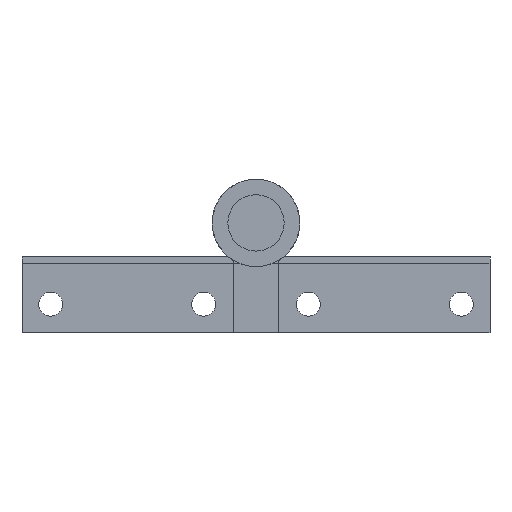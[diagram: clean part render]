
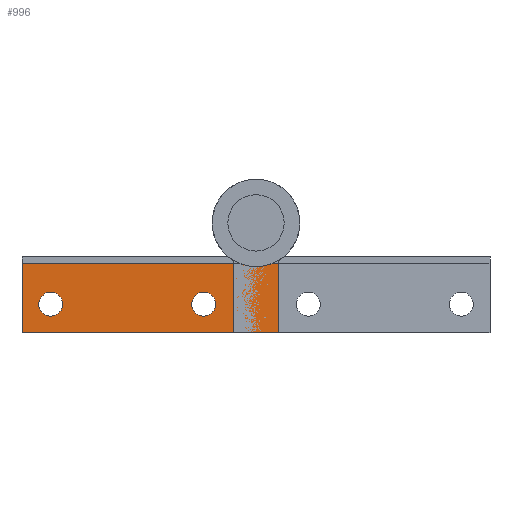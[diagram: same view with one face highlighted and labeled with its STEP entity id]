
A CAD part, front view. The second image highlights one B-rep face of the part: STEP entity #996.
In plain terms, the highlighted planar face has unit normal (0, -1, 0).
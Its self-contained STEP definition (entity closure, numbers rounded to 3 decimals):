
#47 = CIRCLE ( 'NONE', #1900, 2.5 ) ;
#150 = PLANE ( 'NONE',  #1960 ) ;
#151 = CARTESIAN_POINT ( 'NONE',  ( 9.15, 333.2, -23. ) ) ;
#152 = DIRECTION ( 'NONE',  ( 0., 1., 0. ) ) ;
#153 = DIRECTION ( 'NONE',  ( 1., 0., 0. ) ) ;
#327 = CARTESIAN_POINT ( 'NONE',  ( -10.95, 333.2, -17. ) ) ;
#328 = DIRECTION ( 'NONE',  ( 0., 1., 0. ) ) ;
#329 = DIRECTION ( 'NONE',  ( 1., 0., 0. ) ) ;
#336 = CARTESIAN_POINT ( 'NONE',  ( -48.95, 333.2, -23. ) ) ;
#340 = DIRECTION ( 'NONE',  ( 0., 0., -1. ) ) ;
#355 = CARTESIAN_POINT ( 'NONE',  ( 9.15, 333.2, -23. ) ) ;
#356 = DIRECTION ( 'NONE',  ( -1., 0., 0. ) ) ;
#373 = CARTESIAN_POINT ( 'NONE',  ( -42.95, 333.2, -17. ) ) ;
#374 = DIRECTION ( 'NONE',  ( 0., 1., 0. ) ) ;
#375 = DIRECTION ( 'NONE',  ( 1., 0., 0. ) ) ;
#464 = CARTESIAN_POINT ( 'NONE',  ( -42.95, 333.2, -17. ) ) ;
#477 = CARTESIAN_POINT ( 'NONE',  ( 9.15, 333.2, -8.5 ) ) ;
#478 = DIRECTION ( 'NONE',  ( -1., 0., 0. ) ) ;
#483 = DIRECTION ( 'NONE',  ( 0., 1., 0. ) ) ;
#484 = DIRECTION ( 'NONE',  ( 1., 0., 0. ) ) ;
#583 = CARTESIAN_POINT ( 'NONE',  ( 4.75, 333.2, -23. ) ) ;
#584 = DIRECTION ( 'NONE',  ( 0., 0., -1. ) ) ;
#613 = CARTESIAN_POINT ( 'NONE',  ( -10.95, 333.2, -17. ) ) ;
#621 = DIRECTION ( 'NONE',  ( 0., 1., 0. ) ) ;
#622 = DIRECTION ( 'NONE',  ( 1., 0., 0. ) ) ;
#732 = CARTESIAN_POINT ( 'NONE',  ( -8.45, 333.2, -17. ) ) ;
#734 = CARTESIAN_POINT ( 'NONE',  ( -13.45, 333.2, -17. ) ) ;
#736 = CARTESIAN_POINT ( 'NONE',  ( -40.45, 333.2, -17. ) ) ;
#737 = CARTESIAN_POINT ( 'NONE',  ( -45.45, 333.2, -17. ) ) ;
#781 = CARTESIAN_POINT ( 'NONE',  ( -48.95, 333.2, -23. ) ) ;
#782 = CARTESIAN_POINT ( 'NONE',  ( -48.95, 333.2, -8.5 ) ) ;
#785 = CARTESIAN_POINT ( 'NONE',  ( 4.75, 333.2, -8.5 ) ) ;
#786 = CARTESIAN_POINT ( 'NONE',  ( 4.75, 333.2, -23. ) ) ;
#894 = VERTEX_POINT ( 'NONE', #786 ) ;
#895 = VERTEX_POINT ( 'NONE', #785 ) ;
#898 = VERTEX_POINT ( 'NONE', #782 ) ;
#899 = VERTEX_POINT ( 'NONE', #781 ) ;
#942 = VERTEX_POINT ( 'NONE', #737 ) ;
#943 = VERTEX_POINT ( 'NONE', #736 ) ;
#945 = VERTEX_POINT ( 'NONE', #734 ) ;
#947 = VERTEX_POINT ( 'NONE', #732 ) ;
#996 = ADVANCED_FACE ( 'NONE', ( #1627, #1124, #1123 ), #150, .F. ) ;
#1123 = FACE_OUTER_BOUND ( 'NONE', #1804, .T. ) ;
#1124 = FACE_BOUND ( 'NONE', #1778, .T. ) ;
#1163 = LINE ( 'NONE', #336, #1685 ) ;
#1174 = CIRCLE ( 'NONE', #1826, 2.5 ) ;
#1197 = LINE ( 'NONE', #477, #1629 ) ;
#1291 = VECTOR ( 'NONE', #356, 1000. ) ;
#1314 = ORIENTED_EDGE ( 'NONE', *, *, #2006, .T. ) ;
#1315 = ORIENTED_EDGE ( 'NONE', *, *, #1880, .T. ) ;
#1316 = ORIENTED_EDGE ( 'NONE', *, *, #1895, .F. ) ;
#1325 = ORIENTED_EDGE ( 'NONE', *, *, #2077, .F. ) ;
#1358 = ORIENTED_EDGE ( 'NONE', *, *, #2012, .T. ) ;
#1359 = ORIENTED_EDGE ( 'NONE', *, *, #2091, .T. ) ;
#1361 = ORIENTED_EDGE ( 'NONE', *, *, #1869, .T. ) ;
#1385 = ORIENTED_EDGE ( 'NONE', *, *, #1913, .T. ) ;
#1463 = VECTOR ( 'NONE', #584, 1000. ) ;
#1496 = LINE ( 'NONE', #583, #1463 ) ;
#1627 = FACE_BOUND ( 'NONE', #1785, .T. ) ;
#1629 = VECTOR ( 'NONE', #478, 1000. ) ;
#1638 = LINE ( 'NONE', #355, #1291 ) ;
#1640 = CIRCLE ( 'NONE', #1937, 2.5 ) ;
#1685 = VECTOR ( 'NONE', #340, 1000. ) ;
#1713 = CIRCLE ( 'NONE', #1972, 2.5 ) ;
#1778 = EDGE_LOOP ( 'NONE', ( #1358, #1385 ) ) ;
#1785 = EDGE_LOOP ( 'NONE', ( #1361, #1359 ) ) ;
#1804 = EDGE_LOOP ( 'NONE', ( #1314, #1315, #1316, #1325 ) ) ;
#1826 = AXIS2_PLACEMENT_3D ( 'NONE', #464, #483, #484 ) ;
#1869 = EDGE_CURVE ( 'NONE', #945, #947, #1713, .T. ) ;
#1880 = EDGE_CURVE ( 'NONE', #898, #899, #1163, .T. ) ;
#1895 = EDGE_CURVE ( 'NONE', #894, #899, #1638, .T. ) ;
#1900 = AXIS2_PLACEMENT_3D ( 'NONE', #613, #621, #622 ) ;
#1913 = EDGE_CURVE ( 'NONE', #943, #942, #1640, .T. ) ;
#1937 = AXIS2_PLACEMENT_3D ( 'NONE', #373, #374, #375 ) ;
#1960 = AXIS2_PLACEMENT_3D ( 'NONE', #151, #152, #153 ) ;
#1972 = AXIS2_PLACEMENT_3D ( 'NONE', #327, #328, #329 ) ;
#2006 = EDGE_CURVE ( 'NONE', #895, #898, #1197, .T. ) ;
#2012 = EDGE_CURVE ( 'NONE', #942, #943, #1174, .T. ) ;
#2077 = EDGE_CURVE ( 'NONE', #895, #894, #1496, .T. ) ;
#2091 = EDGE_CURVE ( 'NONE', #947, #945, #47, .T. ) ;
